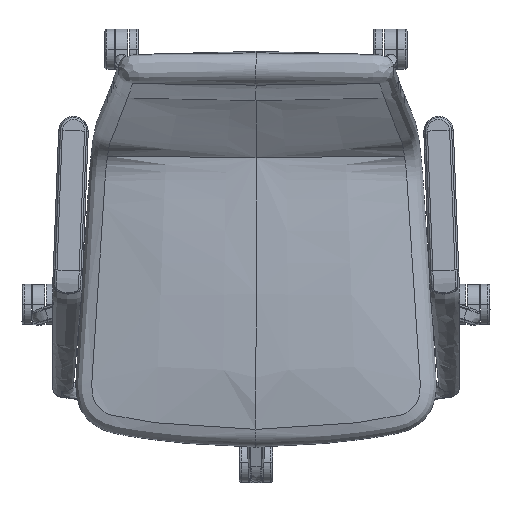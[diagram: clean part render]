
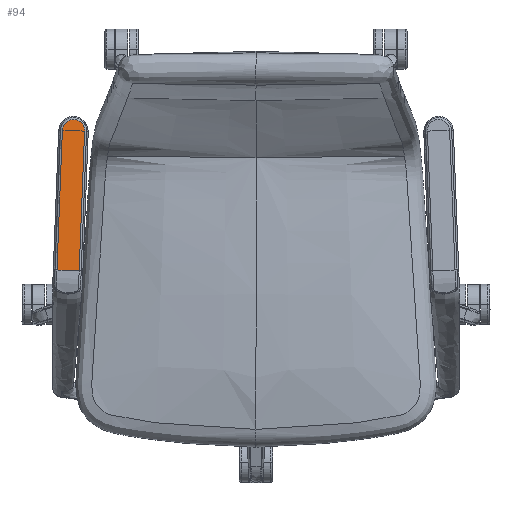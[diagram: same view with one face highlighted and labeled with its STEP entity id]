
A CAD part, top view. The second image highlights one B-rep face of the part: STEP entity #94.
In plain terms, the highlighted planar face has unit normal (0.001, 0.068, 0.998).
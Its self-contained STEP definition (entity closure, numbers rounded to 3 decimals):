
#94=ADVANCED_FACE('',(#429),#4464,.T.);
#429=FACE_OUTER_BOUND('',#764,.T.);
#764=EDGE_LOOP('',(#1116,#1117));
#1116=ORIENTED_EDGE('',*,*,#2503,.T.);
#1117=ORIENTED_EDGE('',*,*,#2496,.F.);
#2496=EDGE_CURVE('',#4028,#4023,#3680,.T.);
#2503=EDGE_CURVE('',#4028,#4023,#3257,.T.);
#3257=(
BOUNDED_CURVE()
B_SPLINE_CURVE(3,(#5735,#5736,#5737,#5738,#5739,#5740,#5741,#5742,#5743,
#5744,#5745,#5746,#5747,#5748,#5749,#5750,#5751,#5752,#5753,#5754,#5755,
#5756,#5757),.UNSPECIFIED.,.F.,.F.)
B_SPLINE_CURVE_WITH_KNOTS((4,3,3,1,1,1,1,1,1,1,3,3,4),(0.,
4.793,208.24,214.719,221.199,227.678,
234.157,240.637,247.116,253.596,260.075,
463.522,468.315),.UNSPECIFIED.)
CURVE()
GEOMETRIC_REPRESENTATION_ITEM()
RATIONAL_B_SPLINE_CURVE((1.,1.,1.,1.,1.,1.,1.,1.,1.,1.,1.,
1.,1.,1.,1.,1.,1.,1.,
1.,1.,1.,1.,1.))
REPRESENTATION_ITEM('')
);
#3680=B_SPLINE_CURVE_WITH_KNOTS('',1,(#5672,#5673),.UNSPECIFIED.,.F.,.F.,
(2,2),(0.077,0.923),.UNSPECIFIED.);
#4023=VERTEX_POINT('',#5553);
#4028=VERTEX_POINT('',#5558);
#4464=PLANE('',#4887);
#4887=AXIS2_PLACEMENT_3D('',#5195,#4957,$);
#4957=DIRECTION('',(0.001,0.068,0.998));
#5195=CARTESIAN_POINT('',(-289.75,191.229,639.23));
#5553=CARTESIAN_POINT('',(-295.503,-35.93,654.737));
#5558=CARTESIAN_POINT('',(-262.527,-37.196,654.799));
#5672=CARTESIAN_POINT('',(-262.527,-37.196,654.799));
#5673=CARTESIAN_POINT('',(-295.503,-35.93,654.737));
#5735=CARTESIAN_POINT('',(-262.527,-37.196,654.799));
#5736=CARTESIAN_POINT('',(-262.466,-35.604,654.69));
#5737=CARTESIAN_POINT('',(-262.404,-34.011,654.582));
#5738=CARTESIAN_POINT('',(-262.343,-32.418,654.473));
#5739=CARTESIAN_POINT('',(-259.738,35.19,649.857));
#5740=CARTESIAN_POINT('',(-257.131,102.798,645.241));
#5741=CARTESIAN_POINT('',(-254.526,170.407,640.625));
#5742=CARTESIAN_POINT('',(-254.441,172.559,640.478));
#5743=CARTESIAN_POINT('',(-255.135,176.898,640.183));
#5744=CARTESIAN_POINT('',(-258.591,182.515,639.802));
#5745=CARTESIAN_POINT('',(-263.938,186.385,639.542));
#5746=CARTESIAN_POINT('',(-270.363,187.918,639.442));
#5747=CARTESIAN_POINT('',(-276.886,186.882,639.517));
#5748=CARTESIAN_POINT('',(-282.516,183.434,639.757));
#5749=CARTESIAN_POINT('',(-286.394,178.099,640.124));
#5750=CARTESIAN_POINT('',(-287.419,173.826,640.416));
#5751=CARTESIAN_POINT('',(-287.501,171.673,640.563));
#5752=CARTESIAN_POINT('',(-290.107,104.065,645.179));
#5753=CARTESIAN_POINT('',(-292.713,36.457,649.795));
#5754=CARTESIAN_POINT('',(-295.319,-31.151,654.411));
#5755=CARTESIAN_POINT('',(-295.38,-32.744,654.52));
#5756=CARTESIAN_POINT('',(-295.442,-34.337,654.628));
#5757=CARTESIAN_POINT('',(-295.503,-35.93,654.737));
